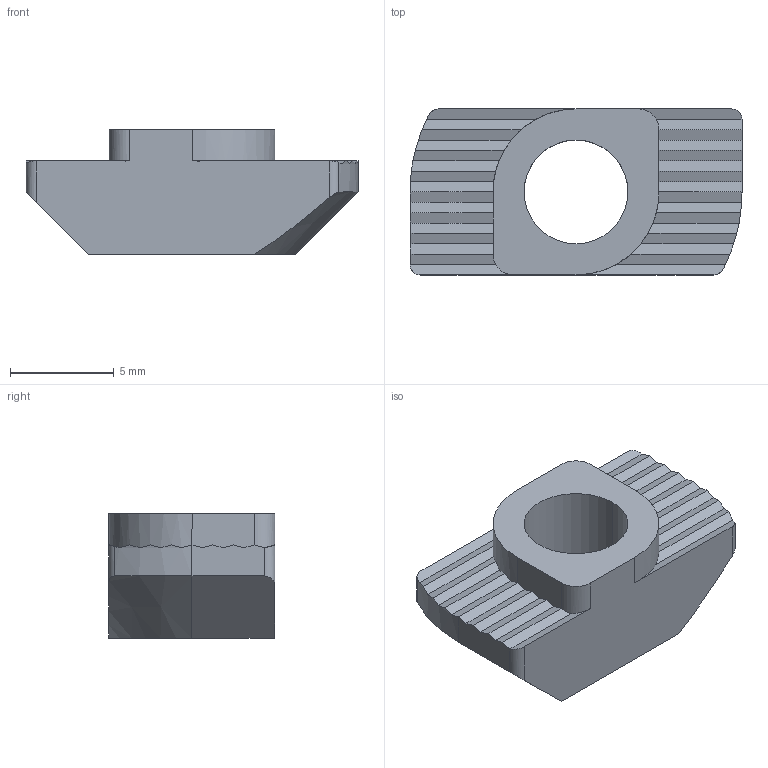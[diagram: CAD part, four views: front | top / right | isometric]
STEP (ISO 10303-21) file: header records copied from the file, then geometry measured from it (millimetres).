
FILE_DESCRIPTION (( 'STEP AP214' ), '1' );
FILE_NAME ('096h08615.STEP', '2012-02-21T13:56:51', ( 'de01pc046' ), ( 'Fath GmbH' ), 'SwSTEP 2.0', 'SolidWorks 2011', '' );
FILE_SCHEMA (( 'AUTOMOTIVE_DESIGN' ));
Length unit declared in the file: millimetre
Products named in the file (1): 096h08615
Bounding box: 16 x 8 x 6 mm (x, y, z)
Volume: 451.1 mm3; surface area: 508.5 mm2
Topology: 1 solids, 1 shells, 56 faces, 152 edges, 98 vertices
Faces by surface type: plane 42, cylinder 12, cone 2
Entity records: 1800 total; most frequent: CARTESIAN_POINT 453, ORIENTED_EDGE 304, DIRECTION 232, EDGE_CURVE 152, VERTEX_POINT 98, VECTOR 94, LINE 94, AXIS2_PLACEMENT_3D 69
